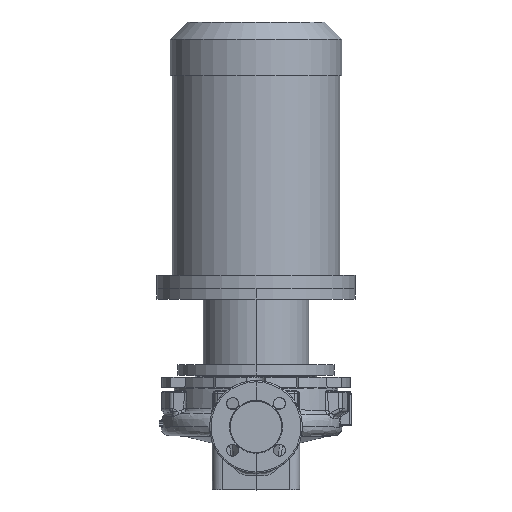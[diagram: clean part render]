
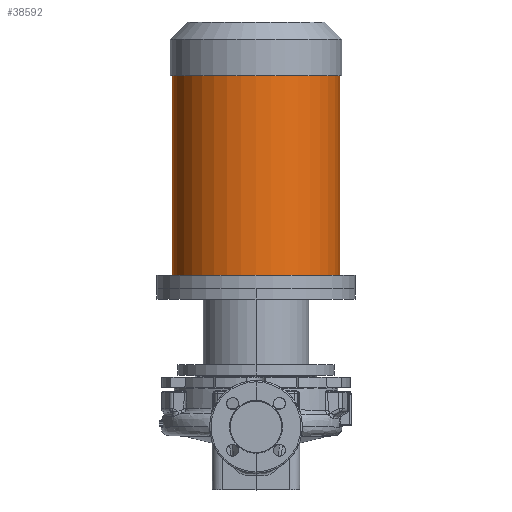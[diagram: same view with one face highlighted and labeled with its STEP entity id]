
A CAD part, top view. The second image highlights one B-rep face of the part: STEP entity #38592.
In plain terms, the highlighted cylindrical face has radius 126.5 mm (diameter 253 mm), a partial arc.
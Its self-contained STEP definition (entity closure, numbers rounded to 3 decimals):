
#872 = CARTESIAN_POINT ( 'NONE',  ( 126.5, 229.3, 0. ) ) ;
#1359 = CARTESIAN_POINT ( 'NONE',  ( 126.5, 209.3, 0. ) ) ;
#3823 = LINE ( 'NONE', #11912, #46911 ) ;
#5023 = CARTESIAN_POINT ( 'NONE',  ( -126.5, 531.3, 0. ) ) ;
#6443 = ORIENTED_EDGE ( 'NONE', *, *, #26824, .T. ) ;
#7281 = ORIENTED_EDGE ( 'NONE', *, *, #11661, .F. ) ;
#7448 = DIRECTION ( 'NONE',  ( -1., 0., 0. ) ) ;
#11661 = EDGE_CURVE ( 'NONE', #45665, #42878, #48213, .T. ) ;
#11691 = DIRECTION ( 'NONE',  ( 0., -1., 0. ) ) ;
#11912 = CARTESIAN_POINT ( 'NONE',  ( -126.5, 209.3, 0. ) ) ;
#12259 = LINE ( 'NONE', #1359, #43136 ) ;
#15870 = CARTESIAN_POINT ( 'NONE',  ( 0., 229.3, 0. ) ) ;
#17542 = DIRECTION ( 'NONE',  ( 0., -1., 0. ) ) ;
#25903 = DIRECTION ( 'NONE',  ( -1., 0., 0. ) ) ;
#26102 = AXIS2_PLACEMENT_3D ( 'NONE', #15870, #59480, #45578 ) ;
#26824 = EDGE_CURVE ( 'NONE', #27151, #40395, #52657, .T. ) ;
#27151 = VERTEX_POINT ( 'NONE', #52671 ) ;
#32363 = CARTESIAN_POINT ( 'NONE',  ( 0., 531.3, 0. ) ) ;
#35324 = AXIS2_PLACEMENT_3D ( 'NONE', #32363, #47035, #25903 ) ;
#36651 = DIRECTION ( 'NONE',  ( 0., -1., 0. ) ) ;
#37331 = CYLINDRICAL_SURFACE ( 'NONE', #48679, 126.5 ) ;
#38592 = ADVANCED_FACE ( 'NONE', ( #41165 ), #37331, .T. ) ;
#40395 = VERTEX_POINT ( 'NONE', #5023 ) ;
#41165 = FACE_OUTER_BOUND ( 'NONE', #55264, .T. ) ;
#42878 = VERTEX_POINT ( 'NONE', #61886 ) ;
#43136 = VECTOR ( 'NONE', #36651, 1000. ) ;
#45578 = DIRECTION ( 'NONE',  ( -1., 0., 0. ) ) ;
#45665 = VERTEX_POINT ( 'NONE', #872 ) ;
#46911 = VECTOR ( 'NONE', #11691, 1000. ) ;
#47035 = DIRECTION ( 'NONE',  ( 0., -1., 0. ) ) ;
#48213 = CIRCLE ( 'NONE', #26102, 126.5 ) ;
#48679 = AXIS2_PLACEMENT_3D ( 'NONE', #56353, #17542, #7448 ) ;
#49597 = ORIENTED_EDGE ( 'NONE', *, *, #54085, .F. ) ;
#50478 = ORIENTED_EDGE ( 'NONE', *, *, #54191, .T. ) ;
#52657 = CIRCLE ( 'NONE', #35324, 126.5 ) ;
#52671 = CARTESIAN_POINT ( 'NONE',  ( 126.5, 531.3, 0. ) ) ;
#54085 = EDGE_CURVE ( 'NONE', #27151, #45665, #12259, .T. ) ;
#54191 = EDGE_CURVE ( 'NONE', #40395, #42878, #3823, .T. ) ;
#55264 = EDGE_LOOP ( 'NONE', ( #49597, #6443, #50478, #7281 ) ) ;
#56353 = CARTESIAN_POINT ( 'NONE',  ( 0., 209.3, 0. ) ) ;
#59480 = DIRECTION ( 'NONE',  ( 0., -1., 0. ) ) ;
#61886 = CARTESIAN_POINT ( 'NONE',  ( -126.5, 229.3, 0. ) ) ;
